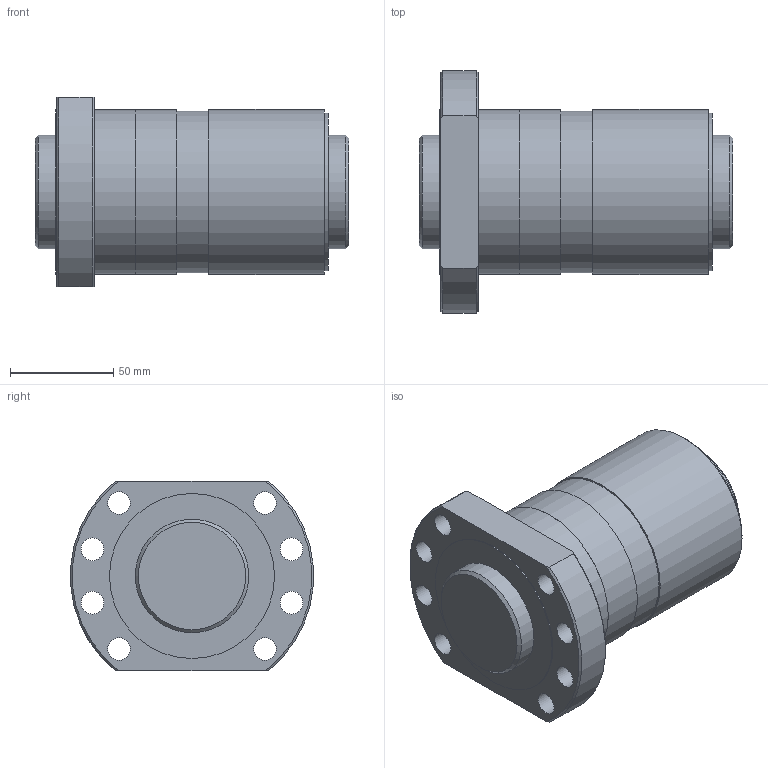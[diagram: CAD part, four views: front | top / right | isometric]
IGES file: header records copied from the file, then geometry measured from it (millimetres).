
Start section: Data from Parasolid IGES Translator 26.0.171, Copyright(c) 2006 Siemens PLM Software. All Rights Reserved.
Global section: file name: SDAN5512VX-4G0+152LC0(0G000).igs; native system: By Siemens PLM Incorporated; preprocessor: XPlus GENERIC/IGES 26.0.171; author: Noname; organization: Noname; date: 20240704.102131; units: millimetre
Bounding box: 152 x 117.61 x 92 mm (x, y, z)
Surface area: 107758.6 mm2 (no closed solid volume)
Topology: 0 solids, 0 shells, 41 faces, 198 edges, 177 vertices
Faces by surface type: revolution 28, extrusion 13
